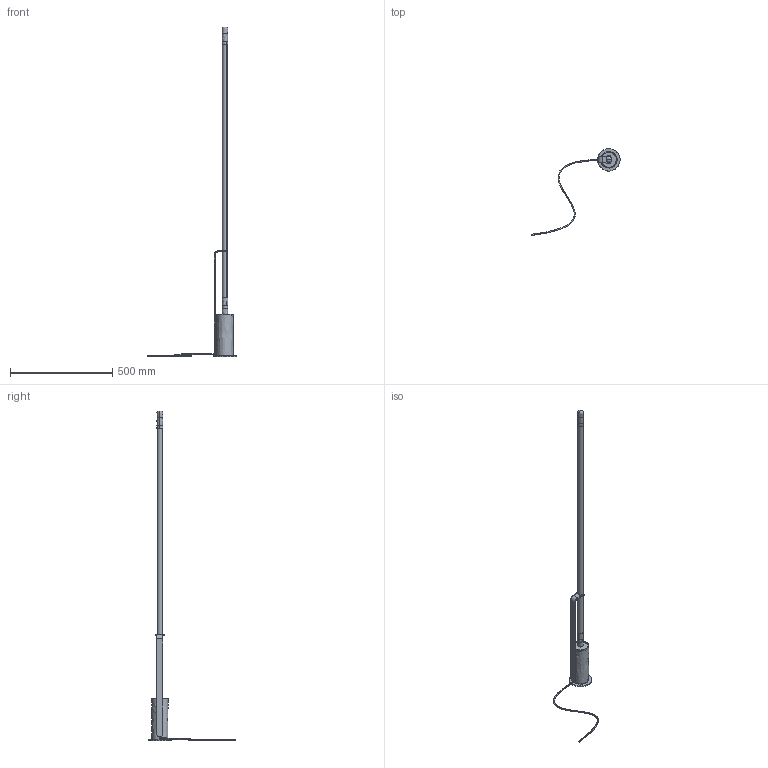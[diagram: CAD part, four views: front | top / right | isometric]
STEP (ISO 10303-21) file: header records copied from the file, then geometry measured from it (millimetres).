
FILE_DESCRIPTION(/* description */ (''),/* implementation_level */ '2;1');
FILE_NAME(/* name */ '5PA2L2~9',/* time_stamp */ '2026-02-12T14:18:49+01:00',/* author */ (''),/* organization */ (''),/* preprocessor_version */ 'ST-DEVELOPER v16.5',/* originating_system */ '',/* authorisation */ '');
FILE_SCHEMA (('AUTOMOTIVE_DESIGN'));
Length unit declared in the file: millimetre
Products named in the file (1): Document
Bounding box: 432.57 x 425.1 x 1616.84 mm (x, y, z)
Volume: 894263 mm3; surface area: 474325.7 mm2
Topology: 7 solids, 7 shells, 64 faces, 137 edges, 83 vertices
Faces by surface type: bspline 64
Entity records: 5582 total; most frequent: CARTESIAN_POINT 3909, ORIENTED_EDGE 266, PCURVE 266, DEFINITIONAL_REPRESENTATION 266, B_SPLINE_CURVE_WITH_KNOTS 257, SURFACE_CURVE 133, EDGE_CURVE 133, VERTEX_POINT 83
